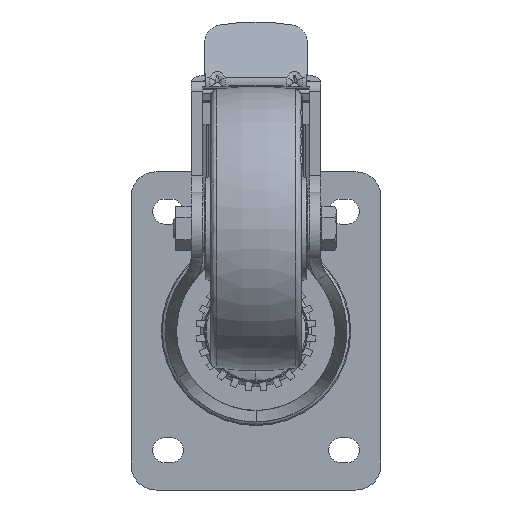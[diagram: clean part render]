
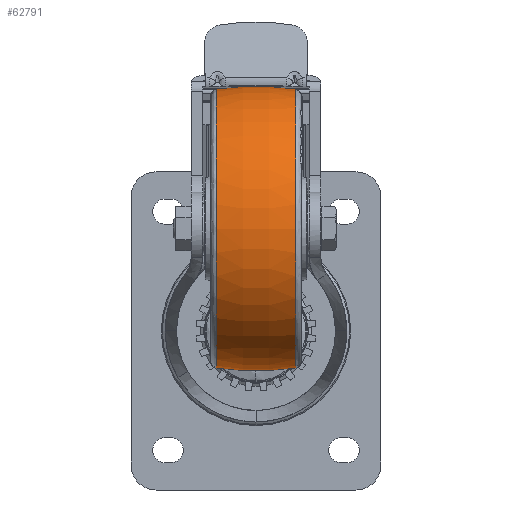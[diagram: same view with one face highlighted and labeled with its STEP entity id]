
A CAD part, front view. The second image highlights one B-rep face of the part: STEP entity #62791.
In plain terms, the highlighted toroidal (fillet/blend) face has major radius 62.5 mm and minor radius 125 mm.
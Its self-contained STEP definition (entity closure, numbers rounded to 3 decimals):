
#3333 = VERTEX_POINT ( 'NONE', #26466 ) ;
#4113 = DIRECTION ( 'NONE',  ( 0., -1., 0. ) ) ;
#7935 = AXIS2_PLACEMENT_3D ( 'NONE', #38848, #4113, #44693 ) ;
#8282 = DIRECTION ( 'NONE',  ( 0., 0., 1. ) ) ;
#8433 = DIRECTION ( 'NONE',  ( 0., 1., 0. ) ) ;
#9935 = EDGE_LOOP ( 'NONE', ( #16706, #35515, #27579, #42554 ) ) ;
#10958 = DIRECTION ( 'NONE',  ( -1., 0., 0. ) ) ;
#12588 = CARTESIAN_POINT ( 'NONE',  ( -17.408, 0., 0. ) ) ;
#13364 = AXIS2_PLACEMENT_3D ( 'NONE', #45698, #10958, #51549 ) ;
#14175 = CIRCLE ( 'NONE', #7935, 125. ) ;
#16706 = ORIENTED_EDGE ( 'NONE', *, *, #41211, .T. ) ;
#17631 = CIRCLE ( 'NONE', #44612, 125. ) ;
#18418 = DIRECTION ( 'NONE',  ( 0., 0., -1. ) ) ;
#20034 = CARTESIAN_POINT ( 'NONE',  ( -17.408, 0., 61.282 ) ) ;
#22727 = VERTEX_POINT ( 'NONE', #43816 ) ;
#24089 = VERTEX_POINT ( 'NONE', #73510 ) ;
#26466 = CARTESIAN_POINT ( 'NONE',  ( 17.408, 0., -61.282 ) ) ;
#27579 = ORIENTED_EDGE ( 'NONE', *, *, #38521, .T. ) ;
#32314 = EDGE_CURVE ( 'NONE', #3333, #22727, #17631, .T. ) ;
#33375 = CIRCLE ( 'NONE', #38734, 61.282 ) ;
#34790 = TOROIDAL_SURFACE ( 'NONE', #38490, -62.5, 125. ) ;
#35515 = ORIENTED_EDGE ( 'NONE', *, *, #32314, .T. ) ;
#38490 = AXIS2_PLACEMENT_3D ( 'NONE', #54436, #42989, #8282 ) ;
#38521 = EDGE_CURVE ( 'NONE', #22727, #69705, #33375, .T. ) ;
#38734 = AXIS2_PLACEMENT_3D ( 'NONE', #12588, #53210, #18418 ) ;
#38848 = CARTESIAN_POINT ( 'NONE',  ( 0., 0., -62.5 ) ) ;
#39662 = EDGE_CURVE ( 'NONE', #24089, #69705, #14175, .T. ) ;
#41211 = EDGE_CURVE ( 'NONE', #24089, #3333, #62619, .T. ) ;
#42554 = ORIENTED_EDGE ( 'NONE', *, *, #39662, .F. ) ;
#42989 = DIRECTION ( 'NONE',  ( -1., 0., 0. ) ) ;
#43139 = CARTESIAN_POINT ( 'NONE',  ( 0., 0., 62.5 ) ) ;
#43816 = CARTESIAN_POINT ( 'NONE',  ( -17.408, 0., -61.282 ) ) ;
#44612 = AXIS2_PLACEMENT_3D ( 'NONE', #43139, #8433, #48977 ) ;
#44693 = DIRECTION ( 'NONE',  ( 0., 0., -1. ) ) ;
#45698 = CARTESIAN_POINT ( 'NONE',  ( 17.408, 0., 0. ) ) ;
#48977 = DIRECTION ( 'NONE',  ( 0., 0., 1. ) ) ;
#51549 = DIRECTION ( 'NONE',  ( 0., 0., 1. ) ) ;
#53210 = DIRECTION ( 'NONE',  ( 1., 0., 0. ) ) ;
#53881 = FACE_OUTER_BOUND ( 'NONE', #9935, .T. ) ;
#54436 = CARTESIAN_POINT ( 'NONE',  ( 0., 0., 0. ) ) ;
#62619 = CIRCLE ( 'NONE', #13364, 61.282 ) ;
#62791 = ADVANCED_FACE ( 'NONE', ( #53881 ), #34790, .T. ) ;
#69705 = VERTEX_POINT ( 'NONE', #20034 ) ;
#73510 = CARTESIAN_POINT ( 'NONE',  ( 17.408, 0., 61.282 ) ) ;
